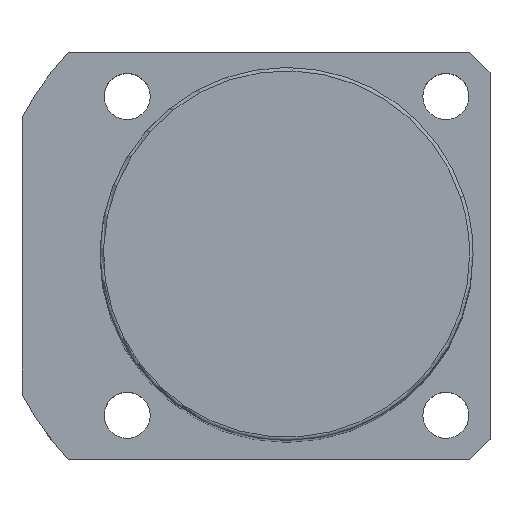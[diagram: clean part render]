
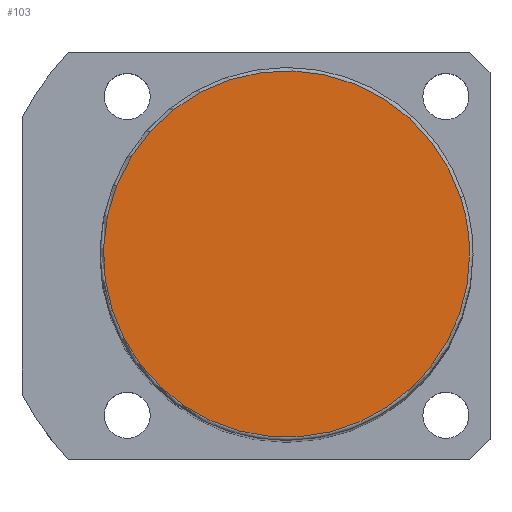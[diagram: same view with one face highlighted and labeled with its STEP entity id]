
A CAD part, top view. The second image highlights one B-rep face of the part: STEP entity #103.
In plain terms, the highlighted planar face has unit normal (0, 0, 1).
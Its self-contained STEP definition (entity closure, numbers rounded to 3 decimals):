
#16=CARTESIAN_POINT('',(-25.679,-8.343,171.0));
#17=VERTEX_POINT('',#16);
#54=CARTESIAN_POINT('',(25.679,8.343,171.0));
#55=VERTEX_POINT('',#54);
#63=CARTESIAN_POINT('',(27.0,0.0,171.0));
#64=VERTEX_POINT('',#63);
#65=CARTESIAN_POINT('',(0.0,0.0,171.0));
#66=DIRECTION('',(0.0,0.0,1.0));
#67=DIRECTION('',(1.0,0.0,0.0));
#68=AXIS2_PLACEMENT_3D('',#65,#66,#67);
#69=CIRCLE('',#68,27.0);
#70=EDGE_CURVE('no 898',#64,#55,#69,.T.);
#72=CARTESIAN_POINT('',(0.0,0.0,171.0));
#73=DIRECTION('',(0.0,0.0,1.0));
#74=DIRECTION('',(1.0,0.0,0.0));
#75=AXIS2_PLACEMENT_3D('',#72,#73,#74);
#76=CIRCLE('',#75,27.0);
#77=EDGE_CURVE('no 902',#17,#64,#76,.T.);
#87=ORIENTED_EDGE('',*,*,#70,.T.);
#88=CARTESIAN_POINT('',(0.0,0.0,171.0));
#89=DIRECTION('',(0.0,0.0,1.0));
#90=DIRECTION('',(1.0,0.0,0.0));
#91=AXIS2_PLACEMENT_3D('',#88,#89,#90);
#92=CIRCLE('',#91,27.0);
#93=EDGE_CURVE('no 911',#55,#17,#92,.T.);
#94=ORIENTED_EDGE('',*,*,#93,.T.);
#95=ORIENTED_EDGE('',*,*,#77,.T.);
#96=EDGE_LOOP('',(#87,#94,#95));
#97=FACE_OUTER_BOUND('',#96,.T.);
#98=CARTESIAN_POINT('',(0.0,0.0,171.0));
#99=DIRECTION('',(0.0,0.0,1.0));
#100=DIRECTION('',(1.0,0.0,0.0));
#101=AXIS2_PLACEMENT_3D('',#98,#99,#100);
#102=PLANE('',#101);
#103=ADVANCED_FACE('no 904',(#97),#102,.T.);
